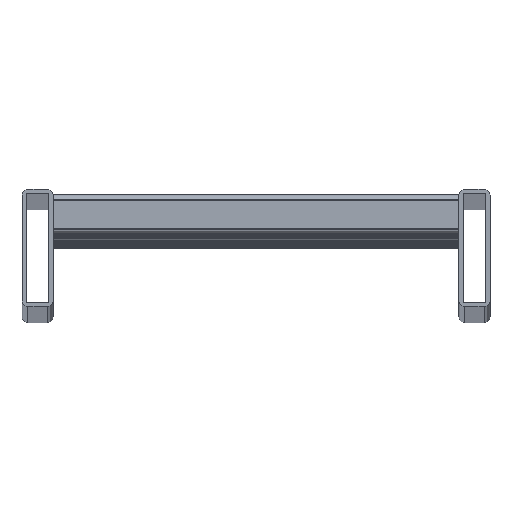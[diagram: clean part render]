
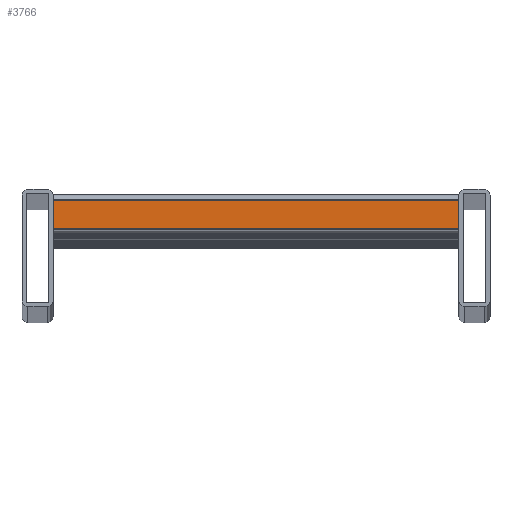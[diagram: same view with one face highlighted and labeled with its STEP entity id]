
A CAD part, top view. The second image highlights one B-rep face of the part: STEP entity #3766.
In plain terms, the highlighted planar face has unit normal (0, 0, 1).
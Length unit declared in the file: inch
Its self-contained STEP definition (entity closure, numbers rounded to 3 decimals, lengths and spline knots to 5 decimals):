
#149 = ORIENTED_EDGE ( 'NONE', *, *, #2497, .T. ) ;
#154 = ORIENTED_EDGE ( 'NONE', *, *, #1800, .T. ) ;
#155 = ORIENTED_EDGE ( 'NONE', *, *, #1749, .T. ) ;
#156 = ORIENTED_EDGE ( 'NONE', *, *, #1534, .T. ) ;
#525 = CARTESIAN_POINT ( 'NONE',  ( 0.4, 1.438, -5. ) ) ;
#738 = VERTEX_POINT ( 'NONE', #885 ) ;
#885 = CARTESIAN_POINT ( 'NONE',  ( 5.6, 1.013, -5. ) ) ;
#925 = VERTEX_POINT ( 'NONE', #6349 ) ;
#1133 = VERTEX_POINT ( 'NONE', #6255 ) ;
#1142 = VERTEX_POINT ( 'NONE', #6309 ) ;
#1534 = EDGE_CURVE ( 'NONE', #925, #1142, #3982, .T. ) ;
#1749 = EDGE_CURVE ( 'NONE', #1142, #738, #4316, .T. ) ;
#1800 = EDGE_CURVE ( 'NONE', #738, #1133, #4401, .T. ) ;
#2208 = DIRECTION ( 'NONE',  ( 0., -1., 0. ) ) ;
#2273 = EDGE_LOOP ( 'NONE', ( #156, #155, #154, #149 ) ) ;
#2497 = EDGE_CURVE ( 'NONE', #1133, #925, #4733, .T. ) ;
#3042 = AXIS2_PLACEMENT_3D ( 'NONE', #7298, #7308, #7309 ) ;
#3766 = ADVANCED_FACE ( 'NONE', ( #7077 ), #7303, .F. ) ;
#3982 = LINE ( 'NONE', #525, #3983 ) ;
#3983 = VECTOR ( 'NONE', #2208, 39.37008 ) ;
#4316 = LINE ( 'NONE', #5532, #4320 ) ;
#4320 = VECTOR ( 'NONE', #5533, 39.37008 ) ;
#4401 = LINE ( 'NONE', #5661, #4404 ) ;
#4404 = VECTOR ( 'NONE', #5662, 39.37008 ) ;
#4733 = LINE ( 'NONE', #6562, #4734 ) ;
#4734 = VECTOR ( 'NONE', #6563, 39.37008 ) ;
#5532 = CARTESIAN_POINT ( 'NONE',  ( 19685.03937, 1.013, -5. ) ) ;
#5533 = DIRECTION ( 'NONE',  ( 1., 0., 0. ) ) ;
#5661 = CARTESIAN_POINT ( 'NONE',  ( 5.6, 1.438, -5. ) ) ;
#5662 = DIRECTION ( 'NONE',  ( 0., 1., 0. ) ) ;
#6255 = CARTESIAN_POINT ( 'NONE',  ( 5.6, 1.363, -5. ) ) ;
#6309 = CARTESIAN_POINT ( 'NONE',  ( 0.4, 1.013, -5. ) ) ;
#6349 = CARTESIAN_POINT ( 'NONE',  ( 0.4, 1.363, -5. ) ) ;
#6562 = CARTESIAN_POINT ( 'NONE',  ( 19685.03937, 1.363, -5. ) ) ;
#6563 = DIRECTION ( 'NONE',  ( -1., 0., 0. ) ) ;
#7077 = FACE_OUTER_BOUND ( 'NONE', #2273, .T. ) ;
#7298 = CARTESIAN_POINT ( 'NONE',  ( 19685.03937, 1.438, -5. ) ) ;
#7303 = PLANE ( 'NONE',  #3042 ) ;
#7308 = DIRECTION ( 'NONE',  ( 0., 0., -1. ) ) ;
#7309 = DIRECTION ( 'NONE',  ( -1., 0., 0. ) ) ;
